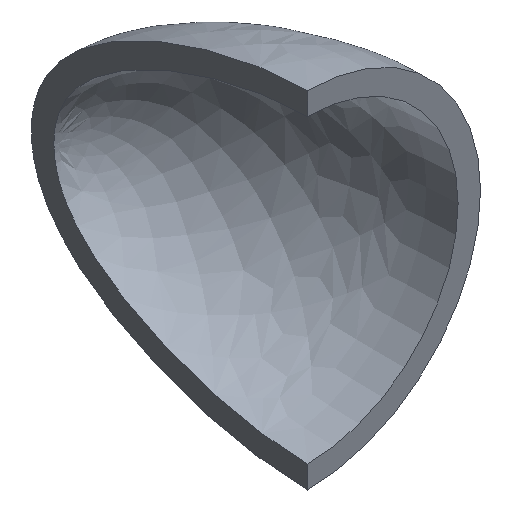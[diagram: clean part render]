
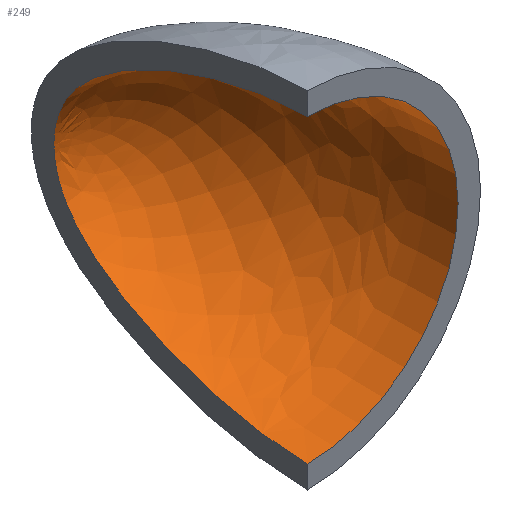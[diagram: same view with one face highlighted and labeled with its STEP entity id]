
A CAD part, isometric view. The second image highlights one B-rep face of the part: STEP entity #249.
In plain terms, the highlighted face is a revolution surface.
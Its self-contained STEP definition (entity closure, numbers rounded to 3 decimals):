
#100=CARTESIAN_POINT('Axis2P3D Location',(0.,0.,0.)) ;
#104=CARTESIAN_POINT('Vertex',(0.,0.,67.)) ;
#106=CARTESIAN_POINT('Vertex',(0.,0.,-67.)) ;
#132=CARTESIAN_POINT('Control Point',(0.,0.,-67.)) ;
#133=CARTESIAN_POINT('Control Point',(0.,2.979,-67.)) ;
#134=CARTESIAN_POINT('Control Point',(0.,5.999,-66.904)) ;
#135=CARTESIAN_POINT('Control Point',(0.,9.058,-66.716)) ;
#136=CARTESIAN_POINT('Control Point',(0.,15.498,-66.139)) ;
#137=CARTESIAN_POINT('Control Point',(0.,22.044,-65.191)) ;
#138=CARTESIAN_POINT('Control Point',(0.,25.471,-64.602)) ;
#139=CARTESIAN_POINT('Control Point',(0.,32.656,-63.18)) ;
#140=CARTESIAN_POINT('Control Point',(0.,39.856,-61.368)) ;
#141=CARTESIAN_POINT('Control Point',(0.,43.605,-60.321)) ;
#142=CARTESIAN_POINT('Control Point',(0.,51.459,-57.906)) ;
#143=CARTESIAN_POINT('Control Point',(0.,59.187,-55.049)) ;
#144=CARTESIAN_POINT('Control Point',(0.,63.193,-53.427)) ;
#145=CARTESIAN_POINT('Control Point',(0.,70.573,-50.158)) ;
#146=CARTESIAN_POINT('Control Point',(0.,77.633,-46.448)) ;
#147=CARTESIAN_POINT('Control Point',(0.,80.842,-44.619)) ;
#148=CARTESIAN_POINT('Control Point',(0.,86.076,-41.367)) ;
#149=CARTESIAN_POINT('Control Point',(0.,90.949,-37.827)) ;
#150=CARTESIAN_POINT('Control Point',(0.,92.864,-36.338)) ;
#151=CARTESIAN_POINT('Control Point',(0.,96.335,-33.437)) ;
#152=CARTESIAN_POINT('Control Point',(0.,99.498,-30.367)) ;
#153=CARTESIAN_POINT('Control Point',(0.,100.91,-28.887)) ;
#154=CARTESIAN_POINT('Control Point',(0.,103.465,-25.978)) ;
#155=CARTESIAN_POINT('Control Point',(0.,105.693,-22.946)) ;
#156=CARTESIAN_POINT('Control Point',(0.,106.681,-21.466)) ;
#157=CARTESIAN_POINT('Control Point',(0.,108.451,-18.516)) ;
#158=CARTESIAN_POINT('Control Point',(0.,109.886,-15.47)) ;
#159=CARTESIAN_POINT('Control Point',(0.,110.507,-13.956)) ;
#160=CARTESIAN_POINT('Control Point',(0.,111.57,-10.91)) ;
#161=CARTESIAN_POINT('Control Point',(0.,112.301,-7.769)) ;
#162=CARTESIAN_POINT('Control Point',(0.,112.582,-6.188)) ;
#163=CARTESIAN_POINT('Control Point',(0.,112.851,-4.007)) ;
#164=CARTESIAN_POINT('Control Point',(0.,112.969,-1.778)) ;
#165=CARTESIAN_POINT('Control Point',(0.,112.99,-1.189)) ;
#166=CARTESIAN_POINT('Control Point',(0.,113.,-0.596)) ;
#167=CARTESIAN_POINT('Control Point',(0.,113.,0.)) ;
#168=CARTESIAN_POINT('Vertex',(0.,113.,0.)) ;
#172=CARTESIAN_POINT('Control Point',(0.,0.,67.)) ;
#173=CARTESIAN_POINT('Control Point',(0.,2.979,67.)) ;
#174=CARTESIAN_POINT('Control Point',(0.,5.999,66.904)) ;
#175=CARTESIAN_POINT('Control Point',(0.,9.058,66.716)) ;
#176=CARTESIAN_POINT('Control Point',(0.,15.498,66.139)) ;
#177=CARTESIAN_POINT('Control Point',(0.,22.044,65.191)) ;
#178=CARTESIAN_POINT('Control Point',(0.,25.471,64.602)) ;
#179=CARTESIAN_POINT('Control Point',(0.,32.656,63.18)) ;
#180=CARTESIAN_POINT('Control Point',(0.,39.856,61.368)) ;
#181=CARTESIAN_POINT('Control Point',(0.,43.605,60.321)) ;
#182=CARTESIAN_POINT('Control Point',(0.,51.459,57.906)) ;
#183=CARTESIAN_POINT('Control Point',(0.,59.187,55.049)) ;
#184=CARTESIAN_POINT('Control Point',(0.,63.193,53.427)) ;
#185=CARTESIAN_POINT('Control Point',(0.,70.573,50.158)) ;
#186=CARTESIAN_POINT('Control Point',(0.,77.633,46.448)) ;
#187=CARTESIAN_POINT('Control Point',(0.,80.842,44.619)) ;
#188=CARTESIAN_POINT('Control Point',(0.,86.076,41.367)) ;
#189=CARTESIAN_POINT('Control Point',(0.,90.949,37.827)) ;
#190=CARTESIAN_POINT('Control Point',(0.,92.864,36.338)) ;
#191=CARTESIAN_POINT('Control Point',(0.,96.335,33.437)) ;
#192=CARTESIAN_POINT('Control Point',(0.,99.498,30.367)) ;
#193=CARTESIAN_POINT('Control Point',(0.,100.91,28.887)) ;
#194=CARTESIAN_POINT('Control Point',(0.,103.465,25.978)) ;
#195=CARTESIAN_POINT('Control Point',(0.,105.693,22.946)) ;
#196=CARTESIAN_POINT('Control Point',(0.,106.681,21.466)) ;
#197=CARTESIAN_POINT('Control Point',(0.,108.451,18.516)) ;
#198=CARTESIAN_POINT('Control Point',(0.,109.886,15.47)) ;
#199=CARTESIAN_POINT('Control Point',(0.,110.507,13.956)) ;
#200=CARTESIAN_POINT('Control Point',(0.,111.57,10.91)) ;
#201=CARTESIAN_POINT('Control Point',(0.,112.301,7.769)) ;
#202=CARTESIAN_POINT('Control Point',(0.,112.582,6.188)) ;
#203=CARTESIAN_POINT('Control Point',(0.,112.851,4.007)) ;
#204=CARTESIAN_POINT('Control Point',(0.,112.969,1.778)) ;
#205=CARTESIAN_POINT('Control Point',(0.,112.99,1.189)) ;
#206=CARTESIAN_POINT('Control Point',(0.,113.,0.596)) ;
#207=CARTESIAN_POINT('Control Point',(0.,113.,0.)) ;
#219=CARTESIAN_POINT('Control Point',(0.,0.,67.)) ;
#220=CARTESIAN_POINT('Control Point',(0.,6.679,67.)) ;
#221=CARTESIAN_POINT('Control Point',(0.,13.746,66.519)) ;
#222=CARTESIAN_POINT('Control Point',(0.,21.206,65.54)) ;
#223=CARTESIAN_POINT('Control Point',(0.,36.659,62.587)) ;
#224=CARTESIAN_POINT('Control Point',(0.,52.508,57.719)) ;
#225=CARTESIAN_POINT('Control Point',(0.,60.362,54.823)) ;
#226=CARTESIAN_POINT('Control Point',(0.,71.711,49.83)) ;
#227=CARTESIAN_POINT('Control Point',(0.,81.925,43.982)) ;
#228=CARTESIAN_POINT('Control Point',(0.,85.177,41.944)) ;
#229=CARTESIAN_POINT('Control Point',(0.,91.321,37.708)) ;
#230=CARTESIAN_POINT('Control Point',(0.,96.659,33.19)) ;
#231=CARTESIAN_POINT('Control Point',(0.,99.104,30.87)) ;
#232=CARTESIAN_POINT('Control Point',(0.,103.512,26.134)) ;
#233=CARTESIAN_POINT('Control Point',(0.,106.932,21.234)) ;
#234=CARTESIAN_POINT('Control Point',(0.,108.388,18.75)) ;
#235=CARTESIAN_POINT('Control Point',(0.,110.806,13.713)) ;
#236=CARTESIAN_POINT('Control Point',(0.,112.258,8.456)) ;
#237=CARTESIAN_POINT('Control Point',(0.,112.748,5.754)) ;
#238=CARTESIAN_POINT('Control Point',(0.,113.,2.943)) ;
#239=CARTESIAN_POINT('Control Point',(0.,113.,0.)) ;
#240=CARTESIAN_POINT('Axis1P Location',(0.,0.,0.)) ;
#101=DIRECTION('Axis2P3D Direction',(0.,1.,0.)) ;
#241=DIRECTION('Axis1P Direction',(0.,1.,0.)) ;
#102=AXIS2_PLACEMENT_3D('Circle Axis2P3D',#100,#101,$) ;
#245=ORIENTED_EDGE('',*,*,#108,.F.) ;
#246=ORIENTED_EDGE('',*,*,#208,.T.) ;
#247=ORIENTED_EDGE('',*,*,#170,.F.) ;
#249=ADVANCED_FACE('PartBody',(#248),#243,.F.) ;
#242=AXIS1_PLACEMENT('Revolution Surface Axis1P',#240,#241) ;
#131=B_SPLINE_CURVE_WITH_KNOTS('',5,(#132,#133,#134,#135,#136,#137,#138,#139,#140,#141,#142,#143,#144,#145,#146,#147,#148,#149,#150,#151,#152,#153,#154,#155,#156,#157,#158,#159,#160,#161,#162,#163,#164,#165,#166,#167),.UNSPECIFIED.,.F.,.U.,(6,3,3,3,3,3,3,3,3,3,3,6),(0.,21.992,45.85,71.853,100.589,125.706,142.935,158.234,172.31,185.814,199.069,203.799),.UNSPECIFIED.) ;
#171=B_SPLINE_CURVE_WITH_KNOTS('',5,(#172,#173,#174,#175,#176,#177,#178,#179,#180,#181,#182,#183,#184,#185,#186,#187,#188,#189,#190,#191,#192,#193,#194,#195,#196,#197,#198,#199,#200,#201,#202,#203,#204,#205,#206,#207),.UNSPECIFIED.,.F.,.U.,(6,3,3,3,3,3,3,3,3,3,3,6),(0.,21.992,45.85,71.853,100.589,125.706,142.935,158.234,172.31,185.814,199.069,203.799),.UNSPECIFIED.) ;
#218=B_SPLINE_CURVE_WITH_KNOTS('',5,(#219,#220,#221,#222,#223,#224,#225,#226,#227,#228,#229,#230,#231,#232,#233,#234,#235,#236,#237,#238,#239),.UNSPECIFIED.,.F.,.U.,(6,3,3,3,3,3,6),(0.,36.278,72.557,90.696,108.835,126.975,145.114),.UNSPECIFIED.) ;
#103=CIRCLE('generated circle',#102,67.) ;
#108=EDGE_CURVE('',#105,#107,#103,.T.) ;
#170=EDGE_CURVE('',#107,#169,#131,.T.) ;
#208=EDGE_CURVE('',#105,#169,#171,.T.) ;
#244=EDGE_LOOP('',(#245,#246,#247)) ;
#248=FACE_OUTER_BOUND('',#244,.T.) ;
#243=SURFACE_OF_REVOLUTION('Surface of Revolution',#218,#242) ;
#105=VERTEX_POINT('',#104) ;
#107=VERTEX_POINT('',#106) ;
#169=VERTEX_POINT('',#168) ;
